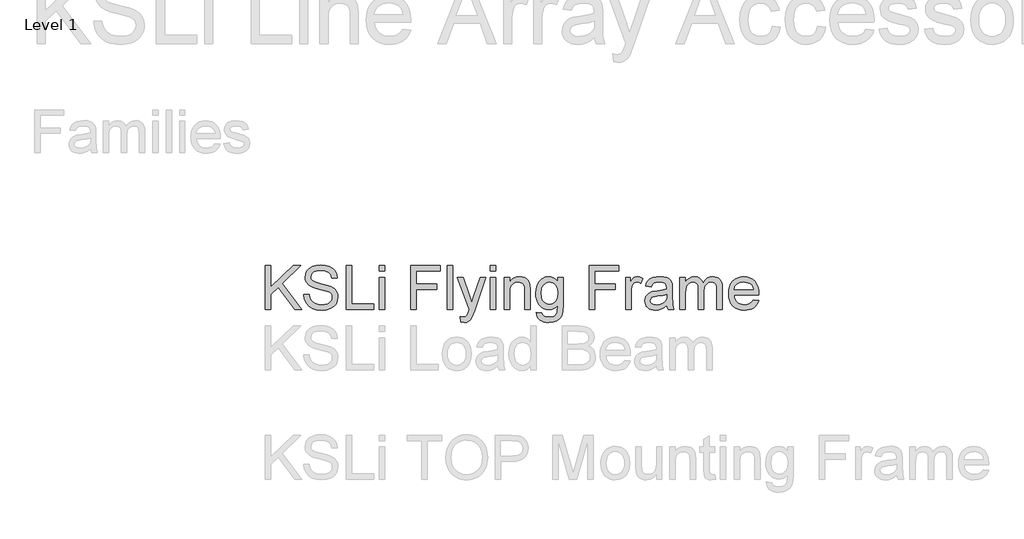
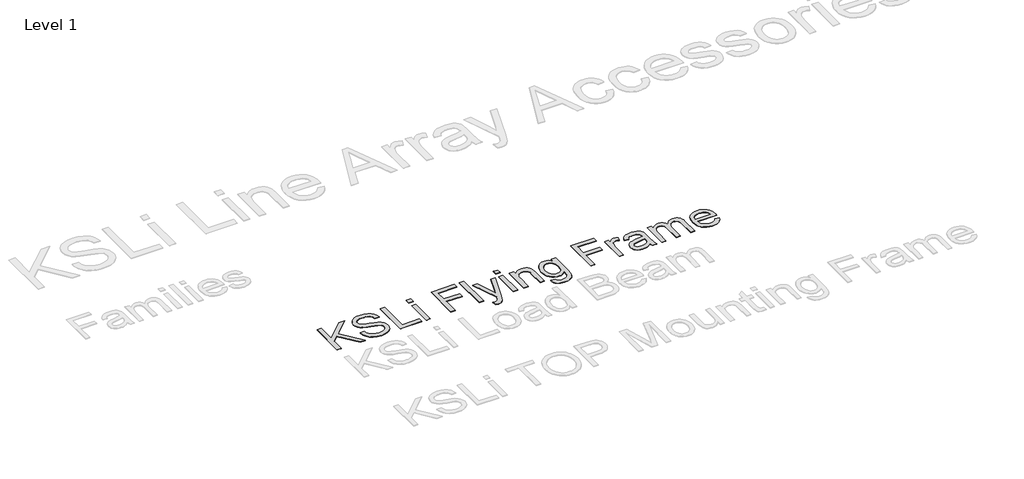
# One storey, part 35 of 52: 1 proxy.
"""IFC4 building model written with IfcOpenShell, lengths in millimetres."""

from ifc_helpers import new_model, si_unit, origin, origin_with_axes, place, context, project, spatial, polyline, outline, extrude, element, save

model = new_model("IFC4")

# Units and contexts
model_context = context("Model", 3, world=origin())
ifc_project = project(units=[si_unit("LENGTHUNIT", "METRE", prefix="MILLI")], contexts=[model_context])

# Site, building, storey
site = spatial("IfcSite", under=ifc_project)
building = spatial("IfcBuilding", under=site)
storey = spatial("IfcBuildingStorey", under=building, Name="Level 1", Elevation=0.0)

# Proxy
placement = place(None, origin())
element("IfcBuildingElementProxy", 1, Name="400mm Arial", ObjectType="400mm Arial", at=placement, inside=storey, context=model_context, shape_type="SweptSolid", body=[
    extrude(outline(polyline([(8048.9284942, -51003.132514), (8048.9284942, -50601.3072734), (8099.1566493, -50601.3072734), (8099.1566493, -50798.0015135), (8305.1705666, -50601.3072734), (8375.4115022, -50601.3072734), (8202.4579136, -50766.5108147), (8381.6900216, -51003.132514), (8320.2782539, -51003.132514), (8166.8469364, -50800.4540601), (8099.1566493, -50865.0050875), (8099.1566493, -51003.132514), (8048.9284942, -51003.132514)])), origin_with_axes(), (0.0, 0.0, 1.0), 5.0),
    extrude(outline(polyline([(8400.5255798, -50865.0050875), (8450.7537348, -50865.0050875), (8456.5172194, -50892.87828), (8466.9405426, -50915.2822935), (8483.2009268, -50933.0632566), (8506.4755944, -50947.0672979), (8534.9251353, -50956.1539832), (8566.7101397, -50959.1828783), (8594.6936968, -50956.8897472), (8619.1946377, -50950.0103539), (8639.0480027, -50939.1210468), (8653.0888322, -50924.7981745), (8661.4397535, -50908.3538493), (8664.2233939, -50891.1001837), (8662.1387293, -50874.2879765), (8655.8847354, -50859.7566377), (8643.1805438, -50847.3590145), (8621.7452862, -50836.947954), (8548.6103456, -50817.7690393), (8500.6017452, -50805.0771105), (8469.8835986, -50792.9983183), (8444.8798857, -50776.100272), (8427.1602362, -50755.6215076), (8416.602023, -50732.0034835), (8413.0826185, -50705.6876581), (8417.4358888, -50676.2693612), (8430.4956996, -50648.8376271), (8451.9186945, -50625.587485), (8481.3615168, -50608.7139642), (8516.7027138, -50598.4500565), (8555.8208327, -50595.028754), (8598.2008385, -50598.6094721), (8635.2833436, -50609.3516263), (8665.7439728, -50627.0344876), (8688.2583509, -50651.4373266), (8702.5076469, -50681.0395645), (8708.1730296, -50714.3206223), (8657.9448745, -50714.3206223), (8648.7232992, -50684.3505024), (8640.3601152, -50672.4924394), (8629.4953336, -50662.7190411), (8599.4516373, -50649.6224421), (8557.78287, -50645.2569091), (8515.133084, -50649.5733911), (8498.8297802, -50654.9689937), (8485.8742027, -50662.5228374), (8468.9516309, -50681.5791247), (8463.3107736, -50704.2161301), (8467.3084246, -50723.5176722), (8479.3013777, -50739.0422924), (8507.6528168, -50752.9237063), (8561.3145371, -50767.0994259), (8616.6930401, -50780.5639069), (8650.1948272, -50792.3116053), (8678.8283091, -50810.5340268), (8698.8043015, -50833.0238794), (8710.5397371, -50859.5359085), (8714.451549, -50889.8248594), (8709.9511259, -50920.7882607), (8696.4498567, -50949.912252), (8674.4995643, -50974.9772786), (8644.6520718, -50993.7637858), (8608.7590518, -51005.4992215), (8568.672177, -51009.4110333), (8519.4618288, -51005.1926531), (8478.9580211, -50992.5375125), (8446.6947702, -50971.3965605), (8422.206092, -50941.7207462), (8406.4852681, -50905.5702088), (8400.5255798, -50865.0050875)])), origin_with_axes(), (0.0, 0.0, 1.0), 5.0),
    extrude(outline(polyline([(8789.7937816, -51003.132514), (8789.7937816, -50601.3072734), (8840.0219367, -50601.3072734), (8840.0219367, -50952.9043589), (9040.934557, -50952.9043589), (9040.934557, -51003.132514), (8789.7937816, -51003.132514)])), origin_with_axes(), (0.0, 0.0, 1.0), 5.0),
    extrude(outline(polyline([(9091.162712, -50651.5354284), (9091.162712, -50601.3072734), (9141.3908671, -50601.3072734), (9141.3908671, -50651.5354284), (9091.162712, -50651.5354284)])), origin_with_axes(), (0.0, 0.0, 1.0), 5.0),
    extrude(outline(polyline([(9091.162712, -51003.132514), (9091.162712, -50708.0421029), (9141.3908671, -50708.0421029), (9141.3908671, -51003.132514), (9091.162712, -51003.132514)])), origin_with_axes(), (0.0, 0.0, 1.0), 5.0),
    extrude(outline(polyline([(9379.9746037, -51003.132514), (9379.9746037, -50601.3072734), (9649.9509373, -50601.3072734), (9649.9509373, -50651.5354284), (9430.2027588, -50651.5354284), (9430.2027588, -50770.8272967), (9618.5583403, -50770.8272967), (9618.5583403, -50821.0554518), (9430.2027588, -50821.0554518), (9430.2027588, -51003.132514), (9379.9746037, -51003.132514)])), origin_with_axes(), (0.0, 0.0, 1.0), 5.0),
    extrude(outline(polyline([(9712.7361311, -51003.132514), (9712.7361311, -50601.3072734), (9762.9642862, -50601.3072734), (9762.9642862, -51003.132514), (9712.7361311, -51003.132514)])), origin_with_axes(), (0.0, 0.0, 1.0), 5.0),
    extrude(outline(polyline([(9838.3065188, -51116.1458629), (9832.0279994, -51067.7816432), (9857.5344844, -51072.1962272), (9870.9499145, -51070.8105383), (9881.3732377, -51066.6534718), (9895.9904156, -51051.202428), (9909.7246768, -51014.2180248), (9913.6487514, -51002.0533934), (9806.9139219, -50708.0421029), (9859.8889292, -50708.0421029), (9916.4937055, -50871.8722181), (9936.2121804, -50937.4042642), (9955.9306554, -50879.5241636), (10014.1050615, -50708.0421029), (10066.6876614, -50708.0421029), (9963.9750083, -51010.1958483), (9937.291301, -51075.7278943), (9923.6306162, -51096.6481171), (9908.1550469, -51111.1426677), (9890.1778801, -51119.6039536), (9869.0124027, -51122.4243823), (9838.3065188, -51116.1458629)])), origin_with_axes(), (0.0, 0.0, 1.0), 5.0),
    extrude(outline(polyline([(10108.2828523, -50651.5354284), (10108.2828523, -50601.3072734), (10158.5110074, -50601.3072734), (10158.5110074, -50651.5354284), (10108.2828523, -50651.5354284)])), origin_with_axes(), (0.0, 0.0, 1.0), 5.0),
    extrude(outline(polyline([(10108.2828523, -51003.132514), (10108.2828523, -50708.0421029), (10158.5110074, -50708.0421029), (10158.5110074, -51003.132514), (10108.2828523, -51003.132514)])), origin_with_axes(), (0.0, 0.0, 1.0), 5.0),
    extrude(outline(polyline([(10233.85324, -51003.132514), (10233.85324, -50708.0421029), (10284.0813951, -50708.0421029), (10284.0813951, -50749.2448864), (10301.5312644, -50728.4718164), (10322.4882754, -50713.6339092), (10346.9524281, -50704.7311649), (10374.9237224, -50701.7635835), (10399.6821807, -50704.1548165), (10422.3559743, -50711.3285154), (10441.2651089, -50722.3895007), (10454.7295899, -50736.4425929), (10463.8653261, -50753.4510038), (10469.7882262, -50773.3779452), (10472.4369766, -50821.9383686), (10472.4369766, -51003.132514), (10422.2088215, -51003.132514), (10422.2088215, -50828.7073973), (10420.761819, -50802.7349285), (10416.4208115, -50784.2672523), (10408.4132467, -50771.0357632), (10395.9665725, -50760.7718555), (10380.0127567, -50754.1867678), (10361.4837669, -50751.9917386), (10332.06547, -50756.9213573), (10306.9881806, -50771.7102135), (10296.966462, -50783.7828743), (10289.8080915, -50800.2823818), (10285.5130692, -50821.208736), (10284.0813951, -50846.5619368), (10284.0813951, -51003.132514), (10233.85324, -51003.132514)])), origin_with_axes(), (0.0, 0.0, 1.0), 5.0),
    extrude(outline(polyline([(10528.9436511, -51028.2465915), (10579.1718061, -51034.5251109), (10584.7145615, -51050.2214093), (10595.4567158, -51061.0126145), (10616.5731423, -51069.400324), (10644.2133429, -51072.1962272), (10673.6929534, -51069.032442), (10695.6187203, -51059.5410866), (10710.8245095, -51044.3352974), (10720.1441867, -51024.0282113), (10723.577752, -50965.4613977), (10706.8636467, -50981.942511), (10688.2120295, -50993.7147349), (10667.6229005, -51000.7780692), (10645.0962597, -51003.132514), (10617.5572267, -51000.3917931), (10593.3107375, -50992.1696305), (10572.3567922, -50978.4660262), (10554.6953907, -50959.2809801), (10540.6821524, -50936.26383), (10530.6726964, -50911.0639133), (10524.6670229, -50883.6812301), (10522.6651317, -50854.1157805), (10526.2581125, -50813.5629218), (10537.037055, -50776.2719503), (10554.6218143, -50744.6708869), (10578.6322459, -50721.1877529), (10608.2467465, -50706.6196259), (10642.643713, -50701.7635835), (10666.1329784, -50704.5104357), (10687.4517401, -50712.7509924), (10706.5999979, -50726.4852536), (10723.577752, -50745.7132192), (10723.577752, -50708.0421029), (10773.8059071, -50708.0421029), (10773.8059071, -50962.8126473), (10770.3723418, -51021.6369783), (10760.0716459, -51060.3749524), (10742.327471, -51086.0653784), (10716.5634686, -51105.7470652), (10683.3437244, -51118.255053), (10643.2323242, -51122.4243823), (10618.6240844, -51120.95592), (10596.4990481, -51116.5505331), (10576.8572153, -51109.2082216), (10559.6985859, -51098.9289855), (10545.8386317, -51085.7005621), (10536.0928245, -51069.5106886), (10530.4611643, -51050.3593651), (10528.9436511, -51028.2465915)]), holes=[polyline([(10572.8932868, -50850.6822152), (10578.2521012, -50896.7533037), (10584.9506191, -50914.3901797), (10594.3285443, -50928.4279435), (10605.7298205, -50939.1363752), (10618.4983914, -50946.785255), (10632.6342571, -50951.3745829), (10648.1374175, -50952.9043589), (10663.4872938, -50951.38378), (10677.5557144, -50946.8220432), (10690.3426794, -50939.2191487), (10701.8481888, -50928.5750963), (10711.3548727, -50914.6752882), (10718.1453612, -50897.3051267), (10723.577752, -50852.1537431), (10717.9859457, -50808.6087776), (10710.9961877, -50791.4072287), (10701.2105267, -50777.2529689), (10689.4566969, -50766.2011807), (10676.562433, -50758.3070462), (10662.5277349, -50753.5705655), (10647.3526026, -50751.9917386), (10632.431922, -50753.54604), (10618.6700697, -50758.2089443), (10594.6228499, -50776.8605615), (10585.116166, -50790.8002234), (10578.3256776, -50807.7503863), (10572.8932868, -50850.6822152)])]), origin_with_axes(), (0.0, 0.0, 1.0), 5.0),
    extrude(outline(polyline([(11012.3896437, -51003.132514), (11012.3896437, -50601.3072734), (11282.3659772, -50601.3072734), (11282.3659772, -50651.5354284), (11062.6177987, -50651.5354284), (11062.6177987, -50770.8272967), (11250.9733803, -50770.8272967), (11250.9733803, -50821.0554518), (11062.6177987, -50821.0554518), (11062.6177987, -51003.132514), (11012.3896437, -51003.132514)])), origin_with_axes(), (0.0, 0.0, 1.0), 5.0),
    extrude(outline(polyline([(11345.151171, -51003.132514), (11345.151171, -50708.0421029), (11389.1008067, -50708.0421029), (11389.1008067, -50751.697433), (11405.3366654, -50726.3871517), (11420.2971999, -50711.4756682), (11435.3067853, -50704.1916047), (11451.6897968, -50701.7635835), (11476.7057725, -50705.6386072), (11502.1141556, -50717.2636782), (11485.3387367, -50762.2924345), (11467.6804009, -50754.5669126), (11450.0220651, -50751.9917386), (11435.0247425, -50754.4688107), (11421.6215751, -50761.900027), (11410.7935817, -50773.7213018), (11403.5217809, -50789.3685493), (11397.4149398, -50817.4256828), (11395.3793261, -50848.0334648), (11395.3793261, -51003.132514), (11345.151171, -51003.132514)])), origin_with_axes(), (0.0, 0.0, 1.0), 5.0),
    extrude(outline(polyline([(11721.8623341, -50965.4613977), (11697.8641653, -50986.0382639), (11673.1547579, -50999.5027449), (11647.1700263, -51006.9339612), (11619.3458848, -51009.4110333), (11596.9817251, -51007.9211113), (11577.3705491, -51003.451345), (11560.5123567, -50996.0017346), (11546.4071479, -50985.5722801), (11535.2695205, -50972.8251689), (11527.3140723, -50958.4225888), (11522.5408034, -50942.3645397), (11520.9497138, -50924.6510217), (11523.3532095, -50903.8289007), (11530.5636966, -50884.9197662), (11541.6859956, -50868.7329584), (11555.8249269, -50856.0778178), (11572.4409304, -50846.5128859), (11590.9944457, -50839.5967044), (11634.453572, -50832.0428607), (11685.8098986, -50824.0966096), (11721.5680285, -50814.7769324), (11721.8623341, -50803.5933198), (11718.4042433, -50781.1770435), (11708.0299711, -50766.5108147), (11684.8288799, -50755.6215076), (11652.5043153, -50751.9917386), (11622.5832463, -50754.407497), (11601.687549, -50761.6547723), (11587.4382531, -50775.0579397), (11577.4563883, -50795.9413743), (11527.2282332, -50789.6628549), (11535.9470365, -50762.1943326), (11548.9577964, -50740.6119222), (11567.4745234, -50724.1062834), (11592.7112283, -50711.8680756), (11623.5765277, -50704.2897065), (11658.9790384, -50701.7635835), (11692.9345465, -50703.995401), (11719.8512459, -50710.6908533), (11740.1460693, -50720.7585572), (11754.2359497, -50733.1071295), (11763.5801523, -50748.3742323), (11769.6379425, -50767.1975277), (11772.0904892, -50811.1471634), (11772.0904892, -50873.6380517), (11774.6411377, -50960.8996609), (11784.6475279, -51003.132514), (11734.4193729, -51003.132514), (11726.3750199, -50985.6703819), (11721.8623341, -50965.4613977)]), holes=[polyline([(11721.8623341, -50865.0050875), (11688.1152924, -50873.3682715), (11640.8301933, -50880.4070804), (11597.6163216, -50888.5495352), (11586.3713953, -50894.1168161), (11578.0449994, -50901.793287), (11572.8946515, -50910.9903369), (11571.1778689, -50921.1193545), (11574.9180025, -50936.0553635), (11586.1384033, -50948.2935712), (11604.5938168, -50956.4605515), (11630.0389881, -50959.1828783), (11657.0170011, -50956.1785086), (11680.8557544, -50947.1653998), (11700.1818218, -50933.8848597), (11713.6217774, -50918.0781967), (11719.5814657, -50901.793287), (11721.5680285, -50879.229858), (11721.8623341, -50865.0050875)])]), origin_with_axes(), (0.0, 0.0, 1.0), 5.0),
    extrude(outline(polyline([(11841.1542024, -51003.132514), (11841.1542024, -50708.0421029), (11891.3823575, -50708.0421029), (11891.3823575, -50756.6025263), (11906.4900447, -50734.2966146), (11925.9142141, -50716.8222199), (11948.9926779, -50705.5282426), (11975.0632486, -50701.7635835), (12002.9977548, -50705.601819), (12025.3895056, -50717.1165254), (12042.1158736, -50735.5474134), (12053.0542316, -50760.1341934), (12071.3624922, -50734.5970516), (12092.2459268, -50716.356236), (12115.7045354, -50705.4117466), (12141.7383179, -50701.7635835), (12161.8461346, -50703.2810967), (12179.4952734, -50707.8336364), (12194.6857341, -50715.4212026), (12207.4175168, -50726.0437952), (12217.482155, -50739.8240416), (12224.6711824, -50756.8845691), (12228.9845988, -50777.2253778), (12230.4224042, -50800.8464675), (12230.4224042, -51003.132514), (12180.1942491, -51003.132514), (12180.1942491, -50822.4288779), (12179.0292895, -50797.3761141), (12175.5344105, -50780.4903305), (12168.986111, -50768.9265731), (12158.6608897, -50759.8398878), (12145.3803497, -50753.9537759), (12129.9660941, -50751.9917386), (12102.7550892, -50757.0194592), (12080.5718049, -50772.102621), (12071.9664319, -50783.6725097), (12065.8197368, -50798.2712936), (12060.9023808, -50836.5555465), (12060.9023808, -51003.132514), (12010.6742258, -51003.132514), (12010.6742258, -50816.8370716), (12007.767958, -50788.4365816), (11999.0491547, -50768.1785464), (11983.7084755, -50756.0384405), (11960.93658, -50751.9917386), (11941.5859871, -50754.6895399), (11923.755973, -50762.7829438), (11909.0406932, -50776.0757465), (11899.034303, -50794.3717444), (11893.2953438, -50819.7556021), (11891.3823575, -50854.3119842), (11891.3823575, -51003.132514), (11841.1542024, -51003.132514)])), origin_with_axes(), (0.0, 0.0, 1.0), 5.0),
    extrude(outline(polyline([(12512.3671653, -50915.2332426), (12561.6143017, -50921.511762), (12554.0635238, -50941.2363683), (12543.8701268, -50958.6187925), (12531.0341109, -50973.6590348), (12515.555476, -50986.357095), (12497.5936375, -50996.443193), (12477.3080112, -51003.6475488), (12429.7653947, -51009.4110333), (12398.5996583, -51006.9247642), (12370.8306991, -50999.4659567), (12346.4585169, -50987.034611), (12325.4831118, -50969.6307269), (12308.6157223, -50947.7386825), (12296.567587, -50921.8428558), (12289.3387058, -50891.9432466), (12286.9290787, -50858.0398551), (12289.3632312, -50822.9868323), (12296.6656888, -50792.0908761), (12308.8364515, -50765.3519864), (12325.8755192, -50742.7701632), (12346.795742, -50724.8297846), (12370.6099699, -50712.0152284), (12397.3182027, -50704.3264947), (12426.9204406, -50701.7635835), (12455.569251, -50704.3203634), (12481.4773405, -50711.990703), (12504.6447091, -50724.7746023), (12525.0713569, -50742.6720614), (12541.7456083, -50765.2048336), (12553.6557879, -50791.8946723), (12560.8018957, -50822.7415776), (12563.1839316, -50857.7455495), (12562.889626, -50871.2836069), (12337.1572338, -50871.2836069), (12340.0665672, -50891.3270443), (12345.8515116, -50908.8811468), (12354.5120669, -50923.9459145), (12366.0482331, -50936.5213474), (12379.8223481, -50946.4357671), (12395.1967499, -50953.5174955), (12430.7464133, -50959.1828783), (12457.4791716, -50956.5586534), (12479.9935498, -50948.6859787), (12498.2895476, -50935.0743449), (12512.3671653, -50915.2332426)]), holes=[polyline([(12337.1572338, -50821.0554518), (12512.9557765, -50821.0554518), (12506.1622223, -50794.5188972), (12492.8448941, -50775.5361863), (12479.1474212, -50765.2354904), (12463.5614873, -50757.8778505), (12446.0870925, -50753.4632666), (12426.7242369, -50751.9917386), (12392.8668306, -50756.6883654), (12364.8710107, -50770.7782458), (12345.4100532, -50792.7408009), (12337.1572338, -50821.0554518)])]), origin_with_axes(), (0.0, 0.0, 1.0), 5.0),
])

save(model, "model.ifc")
